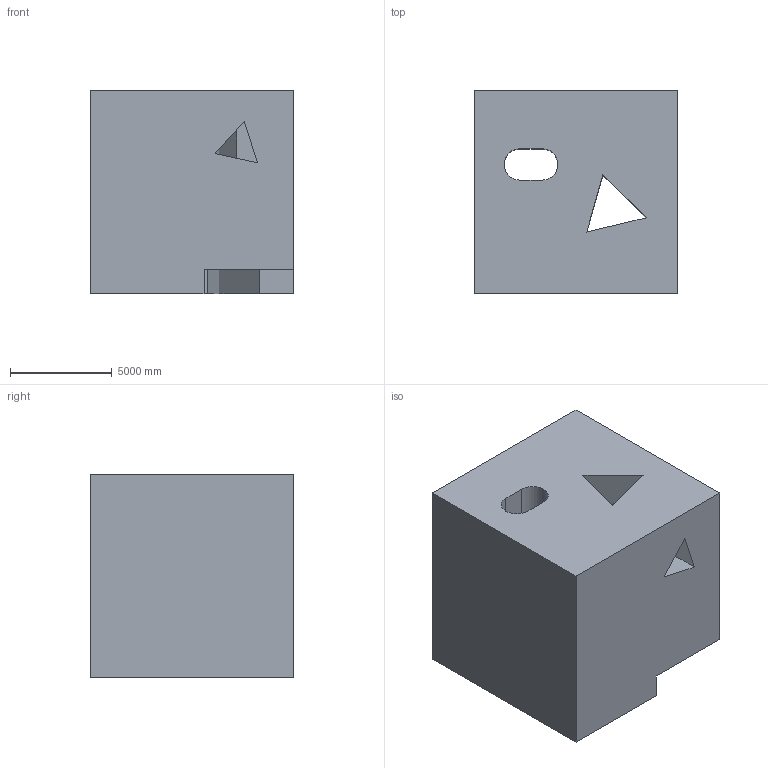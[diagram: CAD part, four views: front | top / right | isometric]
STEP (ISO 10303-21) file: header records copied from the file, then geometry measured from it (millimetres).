
FILE_DESCRIPTION (( 'STEP AP203' ), '1' );
FILE_NAME ('1329.STEP', '2022-08-18T13:48:19', ( 'user' ), ( '' ), 'SwSTEP 2.0', 'SolidWorks 2021', '' );
FILE_SCHEMA (( 'CONFIG_CONTROL_DESIGN' ));
Length unit declared in the file: centimetre
Products named in the file (1): 1329
Bounding box: 10000 x 10000 x 10000 mm (x, y, z)
Volume: 900256254375.6 mm3; surface area: 756969138.1 mm2
Topology: 1 solids, 1 shells, 27 faces, 75 edges, 50 vertices
Faces by surface type: plane 24, cylinder 3
Entity records: 944 total; most frequent: CARTESIAN_POINT 153, ORIENTED_EDGE 150, DIRECTION 137, EDGE_CURVE 75, LINE 69, VECTOR 69, VERTEX_POINT 50, AXIS2_PLACEMENT_3D 34
